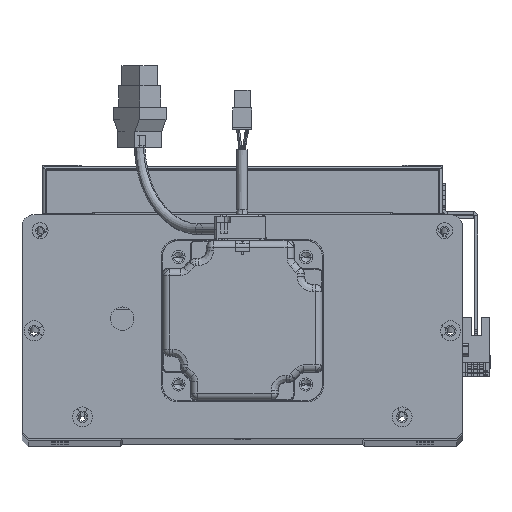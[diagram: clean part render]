
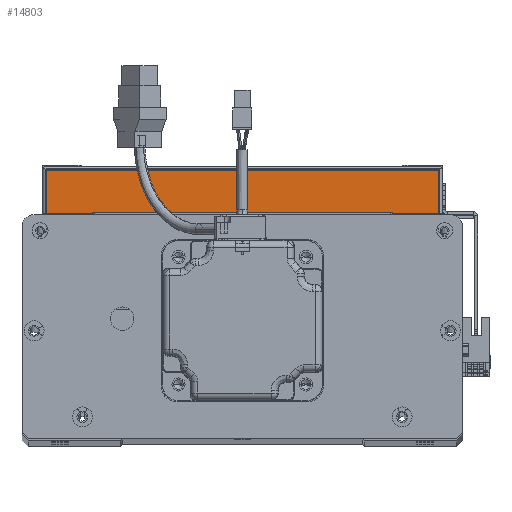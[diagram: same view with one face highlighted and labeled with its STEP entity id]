
A CAD part, top view. The second image highlights one B-rep face of the part: STEP entity #14803.
In plain terms, the highlighted planar face has unit normal (0, 0, 1) as drawn and (1, 0, 0) by its records, which use the part's own axes.
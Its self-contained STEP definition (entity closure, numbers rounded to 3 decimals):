
#932 = LINE ( 'NONE', #47879, #52796 ) ;
#1625 = EDGE_LOOP ( 'NONE', ( #26981, #31712, #68054, #27755 ) ) ;
#3059 = DIRECTION ( 'NONE',  ( 0., 0., -1. ) ) ;
#8414 = FACE_OUTER_BOUND ( 'NONE', #1625, .T. ) ;
#8622 = CARTESIAN_POINT ( 'NONE',  ( 150., 0., -98. ) ) ;
#9283 = VECTOR ( 'NONE', #29331, 1000. ) ;
#11524 = VECTOR ( 'NONE', #40137, 1000. ) ;
#13730 = CARTESIAN_POINT ( 'NONE',  ( 150., 23.5, 98. ) ) ;
#14803 = ADVANCED_FACE ( 'NONE', ( #8414 ), #53652, .F. ) ;
#16115 = DIRECTION ( 'NONE',  ( 0., 0., 1. ) ) ;
#17128 = CARTESIAN_POINT ( 'NONE',  ( 150., 22.5, -98. ) ) ;
#17157 = DIRECTION ( 'NONE',  ( 0., 0., 1. ) ) ;
#17694 = CARTESIAN_POINT ( 'NONE',  ( 150., 23.5, -98. ) ) ;
#18340 = VERTEX_POINT ( 'NONE', #64497 ) ;
#25135 = LINE ( 'NONE', #57115, #60264 ) ;
#26795 = CARTESIAN_POINT ( 'NONE',  ( 150., 0., 98. ) ) ;
#26880 = LINE ( 'NONE', #17694, #9283 ) ;
#26981 = ORIENTED_EDGE ( 'NONE', *, *, #30480, .T. ) ;
#27755 = ORIENTED_EDGE ( 'NONE', *, *, #41120, .T. ) ;
#29331 = DIRECTION ( 'NONE',  ( 0., 1., 0. ) ) ;
#30480 = EDGE_CURVE ( 'NONE', #56089, #52535, #26880, .T. ) ;
#31712 = ORIENTED_EDGE ( 'NONE', *, *, #49751, .T. ) ;
#37752 = CARTESIAN_POINT ( 'NONE',  ( 150., 23.5, -100. ) ) ;
#38671 = DIRECTION ( 'NONE',  ( -1., 0., 0. ) ) ;
#40137 = DIRECTION ( 'NONE',  ( 0., -1., 0. ) ) ;
#41120 = EDGE_CURVE ( 'NONE', #59681, #56089, #25135, .T. ) ;
#47879 = CARTESIAN_POINT ( 'NONE',  ( 150., 22.5, 98. ) ) ;
#49751 = EDGE_CURVE ( 'NONE', #52535, #18340, #932, .T. ) ;
#52535 = VERTEX_POINT ( 'NONE', #17128 ) ;
#52796 = VECTOR ( 'NONE', #16115, 1000. ) ;
#53652 = PLANE ( 'NONE',  #58879 ) ;
#55941 = LINE ( 'NONE', #13730, #11524 ) ;
#56089 = VERTEX_POINT ( 'NONE', #8622 ) ;
#57115 = CARTESIAN_POINT ( 'NONE',  ( 150., 0., -100. ) ) ;
#57757 = EDGE_CURVE ( 'NONE', #18340, #59681, #55941, .T. ) ;
#58879 = AXIS2_PLACEMENT_3D ( 'NONE', #37752, #38671, #17157 ) ;
#59681 = VERTEX_POINT ( 'NONE', #26795 ) ;
#60264 = VECTOR ( 'NONE', #3059, 1000. ) ;
#64497 = CARTESIAN_POINT ( 'NONE',  ( 150., 22.5, 98. ) ) ;
#68054 = ORIENTED_EDGE ( 'NONE', *, *, #57757, .T. ) ;
